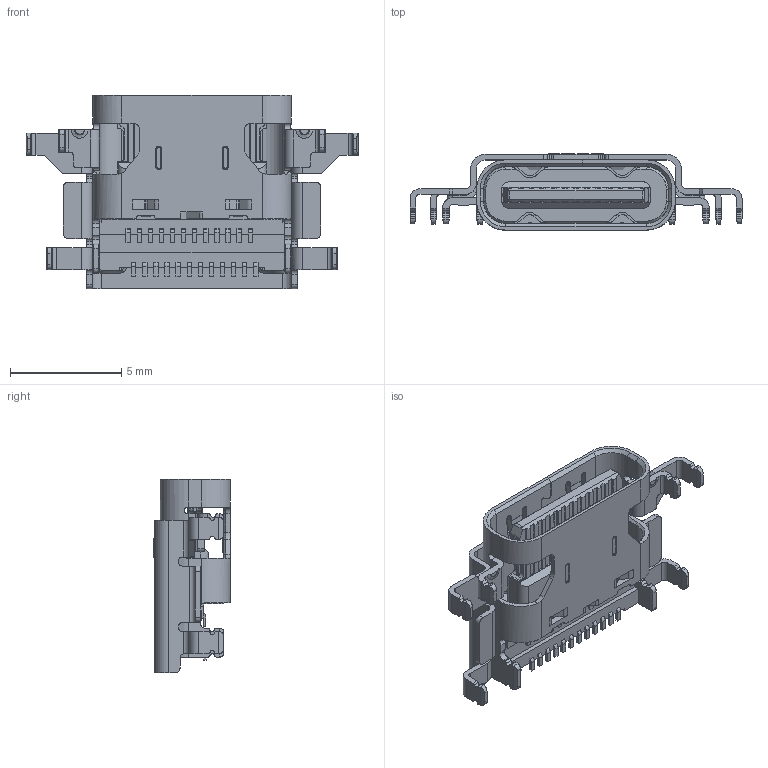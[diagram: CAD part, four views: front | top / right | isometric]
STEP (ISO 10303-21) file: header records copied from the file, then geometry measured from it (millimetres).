
FILE_DESCRIPTION((' '),'2;1');
FILE_NAME( 'U5151-24PN1.1C8.7LXX 24P沉板1.1mm八脚插板SMT 8.7L 91.stp', '2026-05-09T10:28:06', (' '), ('--- ---'), ' V2026.1 Dec 31 2025', ' 2026 (c)', ' ');
FILE_SCHEMA(('AP242_MANAGED_MODEL_BASED_3D_ENGINEERING_MIM_LF { 1 0 10303 442 1 1 4 }'));
Length unit declared in the file: millimetre
Products named in the file (1): U5151-24PN1.1C8.7LXX 24P沉板1.1mm八脚插板SMT 8.7L 91
Bounding box: 14.95 x 3.44 x 8.7 mm (x, y, z)
Volume: 133.6 mm3; surface area: 644.6 mm2
Topology: 1 solids, 1 shells, 1226 faces, 3586 edges, 2349 vertices
Faces by surface type: plane 780, cylinder 369, bspline 47, cone 30
Entity records: 43410 total; most frequent: CARTESIAN_POINT 12259, ORIENTED_EDGE 7172, DIRECTION 5482, EDGE_CURVE 3586, VECTOR 2590, LINE 2590, VERTEX_POINT 2349, AXIS2_PLACEMENT_3D 1446
